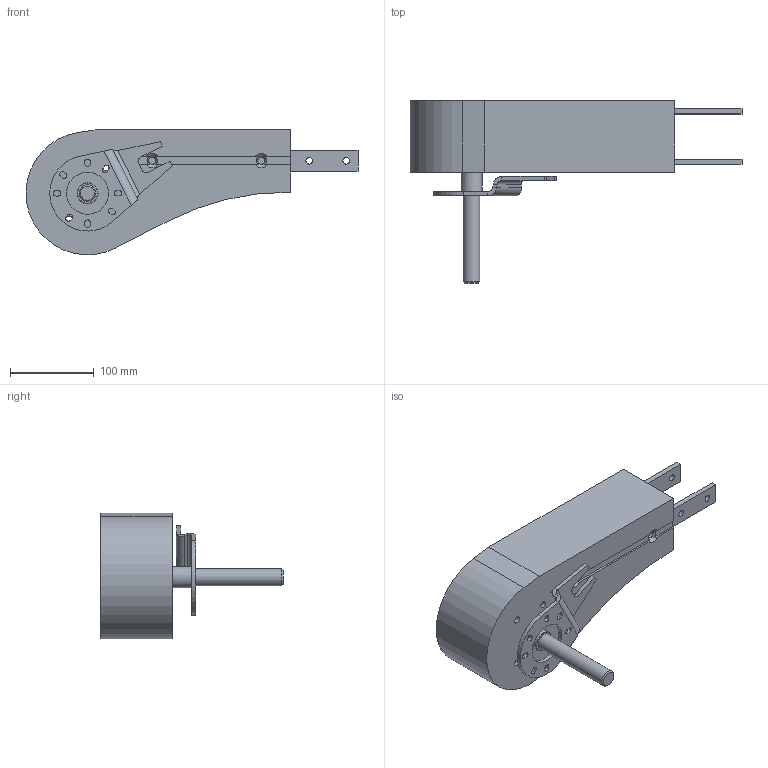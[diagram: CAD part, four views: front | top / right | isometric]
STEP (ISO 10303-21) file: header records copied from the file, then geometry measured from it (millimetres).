
FILE_DESCRIPTION(/* description */ ('Endantriebseinheit FM, heavy, ohne Rutschkupplung, links, geschlossen, direkt'),/* implementation_level */ '2;1');
FILE_NAME(/* name */ 'T:\vdz0\Step Daten Website\modulflex FM-System\Antriebseinheiten rechts - links\FMEB_HNLGP_M-62463.stp',/* time_stamp */ '2024-08-21T09:37:19+02:00',/* author */ ('vdz0'),/* organization */ ('modular automation GmbH'),/* preprocessor_version */ 'ST-DEVELOPER v18.1',/* originating_system */ 'Autodesk Inventor 2021',/* authorisation */ '');
FILE_SCHEMA (('CONFIG_CONTROL_DESIGN'));
Length unit declared in the file: millimetre
Products named in the file (1): FMEB_HNLGP_M-62463
Bounding box: 395.25 x 217.1 x 149.47 mm (x, y, z)
Volume: 2937988.4 mm3; surface area: 185994.9 mm2
Topology: 2 solids, 3 shells, 137 faces, 354 edges, 228 vertices
Faces by surface type: plane 77, cylinder 44, cone 12, bspline 4
Full cylindrical faces by diameter (mm): 8 x8, 8.5 x6, 20 x1, 25 x1, 50 x1
Entity records: 4758 total; most frequent: CARTESIAN_POINT 1192, ORIENTED_EDGE 708, DIRECTION 702, EDGE_CURVE 354, AXIS2_PLACEMENT_3D 238, VERTEX_POINT 228, LINE 226, VECTOR 226
